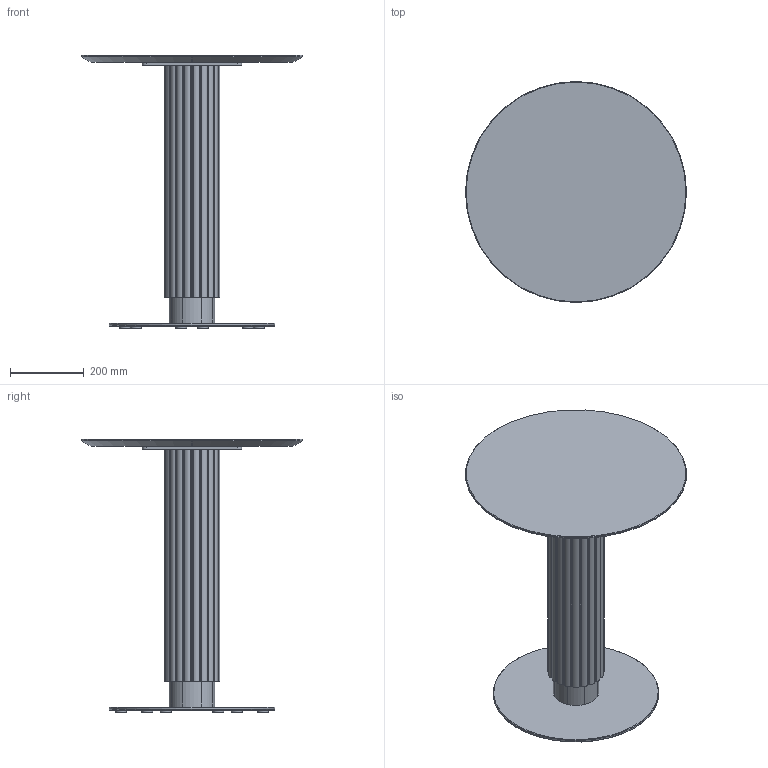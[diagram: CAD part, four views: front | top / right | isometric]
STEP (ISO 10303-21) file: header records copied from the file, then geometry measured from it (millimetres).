
FILE_DESCRIPTION( ('This file contains a STEP AP42 implementation' ,'as created by ZW3D STEP Interface translator.') ,'2;1' );
FILE_NAME( 'God - B_Rond - F1 - M5 - 600 x 600 x 750.stp' ,'24 912.1138 3', (''), ('ZWCAD Software Co.'), 'Version 1.0', 'ZW3D to STEP translator', '' );
FILE_SCHEMA(('AUTOMOTIVE_DESIGN { 1 0 10303 214 1 1 1 1 }'));
Length unit declared in the file: millimetre
Products named in the file (15): 0; PIED BISTROT PARAMETRIQUE_; SOCLE ACIER C Ø450 V.02_; SCL-D450-02_; PLA-R30A-01_; PLA-R30A-01; CROIX ACIER 370 V.02_; CRX-X370-02_; COLONNE ACIER Ø48.5 V.02_; TUB-D048-02_; PLA-R48A-01_; Colonne GODRON H700_; WUERTH 0276063020 Euro-screw 6.3x2 Verzinkt_; PLATEAU BISTROT PARAMETRIQUE_; insert_m6_13_
Assembly tree (25 placements, depth 3):
  0
  PIED BISTROT PARAMETRIQUE_
    SOCLE ACIER C Ø450 V.02_
      SCL-D450-02_
      PLA-R30A-01_
      PLA-R30A-01  x5
    CROIX ACIER 370 V.02_
      CRX-X370-02_
    COLONNE ACIER Ø48.5 V.02_
      TUB-D048-02_
      PLA-R48A-01_  x2
    Colonne GODRON H700_
    WUERTH 0276063020 Euro-screw 6.3x2 Verzinkt_
    PLATEAU BISTROT PARAMETRIQUE_
      insert_m6_13_  x8
Bounding box: 600 x 600 x 744 mm (x, y, z)
Volume: 17641362.6 mm3; surface area: 2330615 mm2
Topology: 29 solids, 29 shells, 656 faces, 1625 edges, 1042 vertices
Faces by surface type: plane 294, cylinder 193, bspline 121, cone 47, torus 1
Full cylindrical faces by diameter (mm): 4.88 x1, 6 x8, 6.3 x1, 8 x47, 12 x2, 14 x2, 30 x6, 44.5 x3, 48.5 x1, 450 x1
Entity records: 16234 total; most frequent: CARTESIAN_POINT 4039, DIRECTION 2249, ORIENTED_EDGE 2240, EDGE_CURVE 1120, AXIS2_PLACEMENT_3D 800, VERTEX_POINT 728, VECTOR 649, LINE 649
